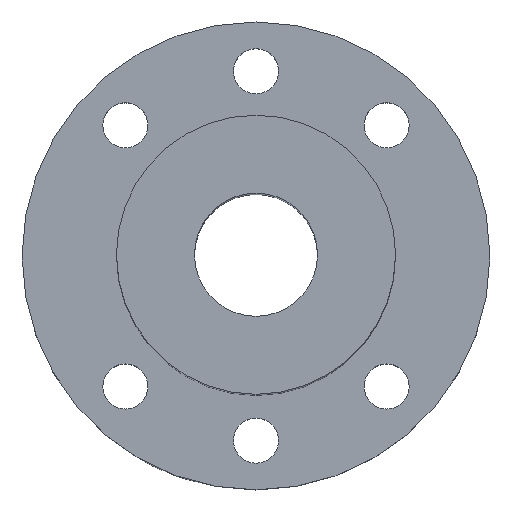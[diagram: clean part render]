
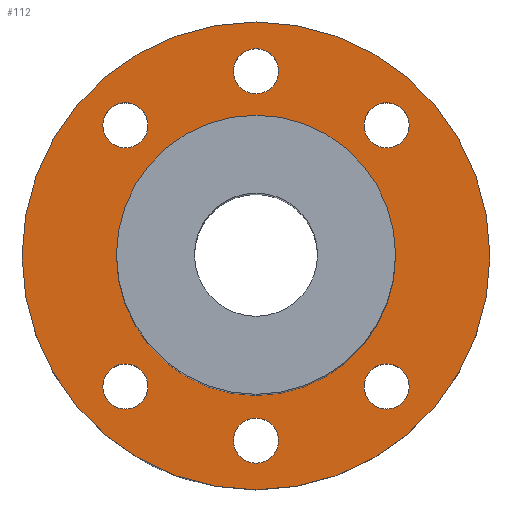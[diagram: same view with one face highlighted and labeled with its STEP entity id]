
A CAD part, top view. The second image highlights one B-rep face of the part: STEP entity #112.
In plain terms, the highlighted planar face has unit normal (0, 0, 1).
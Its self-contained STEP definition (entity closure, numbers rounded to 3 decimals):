
#99=PLANE('',#355);
#112=ADVANCED_FACE('',(#159,#160,#161,#162,#163,#164,#165,#166),#99,.T.);
#159=FACE_BOUND('',#203,.T.);
#160=FACE_BOUND('',#204,.T.);
#161=FACE_BOUND('',#205,.T.);
#162=FACE_BOUND('',#206,.T.);
#163=FACE_BOUND('',#207,.T.);
#164=FACE_BOUND('',#208,.T.);
#165=FACE_BOUND('',#209,.T.);
#166=FACE_BOUND('',#210,.T.);
#203=EDGE_LOOP('',(#247));
#204=EDGE_LOOP('',(#248));
#205=EDGE_LOOP('',(#249));
#206=EDGE_LOOP('',(#250));
#207=EDGE_LOOP('',(#251));
#208=EDGE_LOOP('',(#252));
#209=EDGE_LOOP('',(#253));
#210=EDGE_LOOP('',(#254));
#247=ORIENTED_EDGE('',*,*,#284,.T.);
#248=ORIENTED_EDGE('',*,*,#301,.T.);
#249=ORIENTED_EDGE('',*,*,#300,.F.);
#250=ORIENTED_EDGE('',*,*,#299,.F.);
#251=ORIENTED_EDGE('',*,*,#298,.F.);
#252=ORIENTED_EDGE('',*,*,#297,.T.);
#253=ORIENTED_EDGE('',*,*,#286,.T.);
#254=ORIENTED_EDGE('',*,*,#302,.T.);
#262=VERTEX_POINT('',#437);
#264=VERTEX_POINT('',#499);
#275=VERTEX_POINT('',#582);
#276=VERTEX_POINT('',#585);
#277=VERTEX_POINT('',#588);
#278=VERTEX_POINT('',#591);
#279=VERTEX_POINT('',#594);
#280=VERTEX_POINT('',#597);
#284=EDGE_CURVE('',#262,#262,#306,.T.);
#286=EDGE_CURVE('',#264,#264,#307,.T.);
#297=EDGE_CURVE('',#275,#275,#317,.T.);
#298=EDGE_CURVE('',#276,#276,#318,.T.);
#299=EDGE_CURVE('',#277,#277,#319,.T.);
#300=EDGE_CURVE('',#278,#278,#320,.T.);
#301=EDGE_CURVE('',#279,#279,#321,.T.);
#302=EDGE_CURVE('',#280,#280,#322,.T.);
#306=CIRCLE('',#327,28.5);
#307=CIRCLE('',#329,17.);
#317=CIRCLE('',#343,2.75);
#318=CIRCLE('',#345,2.75);
#319=CIRCLE('',#347,2.75);
#320=CIRCLE('',#349,2.75);
#321=CIRCLE('',#351,2.75);
#322=CIRCLE('',#353,2.75);
#327=AXIS2_PLACEMENT_3D('',#436,#365,#366);
#329=AXIS2_PLACEMENT_3D('',#498,#369,#370);
#343=AXIS2_PLACEMENT_3D('',#581,#397,#398);
#345=AXIS2_PLACEMENT_3D('',#584,#401,#402);
#347=AXIS2_PLACEMENT_3D('',#587,#405,#406);
#349=AXIS2_PLACEMENT_3D('',#590,#409,#410);
#351=AXIS2_PLACEMENT_3D('',#593,#413,#414);
#353=AXIS2_PLACEMENT_3D('',#596,#417,#418);
#355=AXIS2_PLACEMENT_3D('',#599,#421,#422);
#365=DIRECTION('',(0.,0.,1.));
#366=DIRECTION('',(1.,0.,0.));
#369=DIRECTION('',(0.,0.,-1.));
#370=DIRECTION('',(1.,0.,0.));
#397=DIRECTION('',(0.,0.,-1.));
#398=DIRECTION('',(1.,0.,0.));
#401=DIRECTION('',(0.,0.,1.));
#402=DIRECTION('',(1.,0.,0.));
#405=DIRECTION('',(0.,0.,1.));
#406=DIRECTION('',(1.,0.,0.));
#409=DIRECTION('',(0.,0.,1.));
#410=DIRECTION('',(-1.,0.,0.));
#413=DIRECTION('',(0.,0.,-1.));
#414=DIRECTION('',(-1.,0.,0.));
#417=DIRECTION('',(0.,0.,-1.));
#418=DIRECTION('',(1.,0.,0.));
#421=DIRECTION('',(0.,0.,1.));
#422=DIRECTION('',(1.,0.,0.));
#436=CARTESIAN_POINT('',(0.,0.,10.));
#437=CARTESIAN_POINT('',(28.5,0.,10.));
#498=CARTESIAN_POINT('',(0.,0.,10.));
#499=CARTESIAN_POINT('',(17.,0.,10.));
#581=CARTESIAN_POINT('',(-15.91,-15.91,10.));
#582=CARTESIAN_POINT('',(-13.16,-15.91,10.));
#584=CARTESIAN_POINT('',(-15.91,15.91,10.));
#585=CARTESIAN_POINT('',(-13.16,15.91,10.));
#587=CARTESIAN_POINT('',(0.,22.5,10.));
#588=CARTESIAN_POINT('',(2.75,22.5,10.));
#590=CARTESIAN_POINT('',(15.91,-15.91,10.));
#591=CARTESIAN_POINT('',(13.16,-15.91,10.));
#593=CARTESIAN_POINT('',(15.91,15.91,10.));
#594=CARTESIAN_POINT('',(13.16,15.91,10.));
#596=CARTESIAN_POINT('',(0.,-22.5,10.));
#597=CARTESIAN_POINT('',(2.75,-22.5,10.));
#599=CARTESIAN_POINT('',(7.955,7.955,10.));
